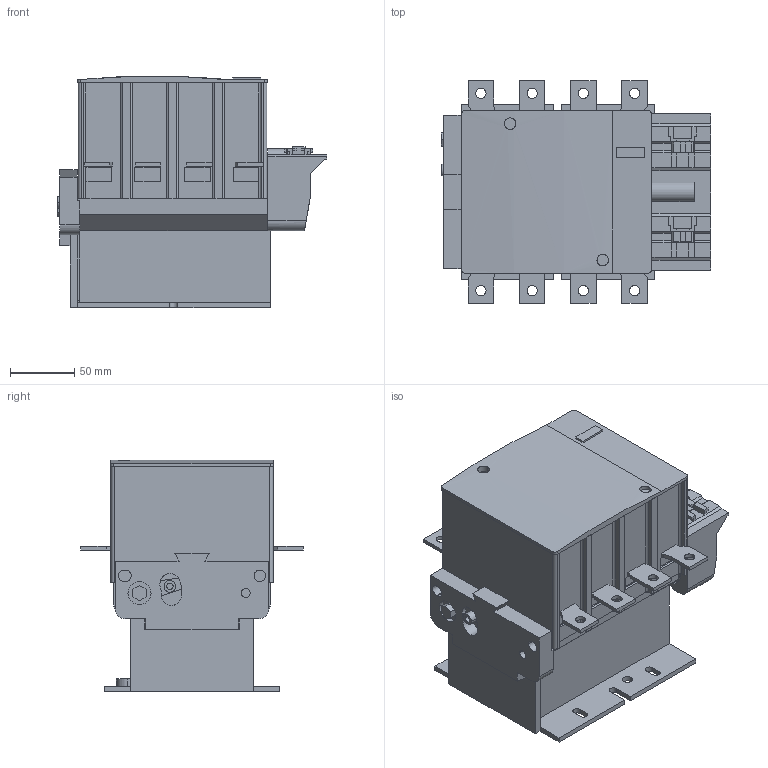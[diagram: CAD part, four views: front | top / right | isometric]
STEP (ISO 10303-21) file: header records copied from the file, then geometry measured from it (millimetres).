
FILE_DESCRIPTION((''),'2;1');
FILE_NAME('LC1F1854AC','2017-02-01T',('sesa358408'),('Schneider-Electric'),'PRO/ENGINEER BY PARAMETRIC TECHNOLOGY CORPORATION, 2014310','PRO/ENGINEER BY PARAMETRIC TECHNOLOGY CORPORATION, 2014310','');
FILE_SCHEMA(('CONFIG_CONTROL_DESIGN'));
Length unit declared in the file: millimetre
Products named in the file (1): LC1F1854AC
Bounding box: 210.5 x 174 x 180.68 mm (x, y, z)
Volume: 2038140.2 mm3; surface area: 302888.3 mm2
Topology: 1 solids, 1 shells, 671 faces, 1949 edges, 1270 vertices
Faces by surface type: plane 577, cylinder 94
Entity records: 22011 total; most frequent: CARTESIAN_POINT 4003, ORIENTED_EDGE 3898, DIRECTION 3477, EDGE_CURVE 1949, VECTOR 1737, LINE 1737, VERTEX_POINT 1270, AXIS2_PLACEMENT_3D 870
